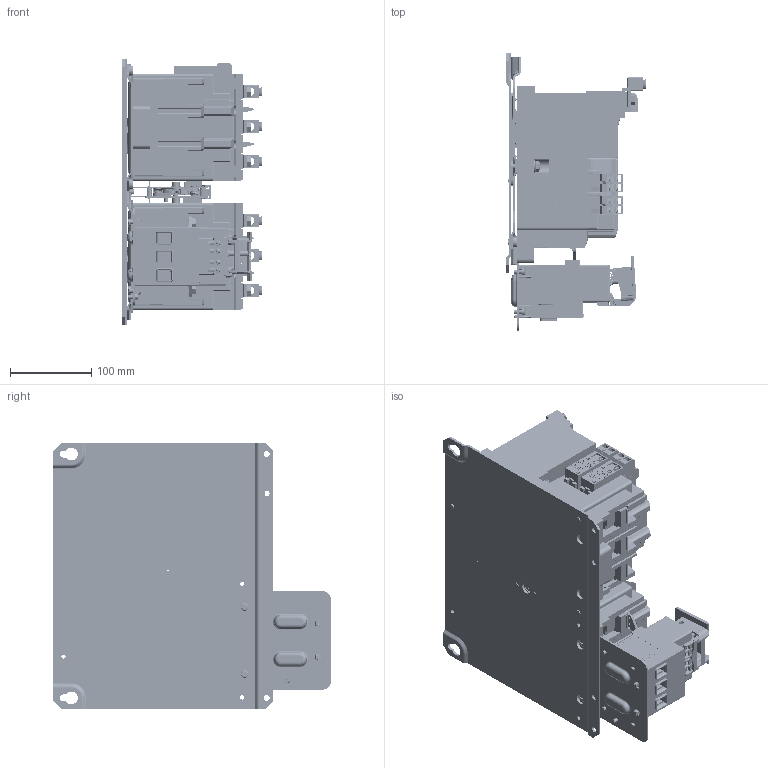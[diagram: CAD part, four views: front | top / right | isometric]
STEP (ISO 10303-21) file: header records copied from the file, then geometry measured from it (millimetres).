
FILE_DESCRIPTION((''),'2;1');
FILE_NAME('10006454360_ASM','2023-06-29T12:55:55',('LEQuenti'),('Rockwell Automation'),'CREO PARAMETRIC BY PTC INC, 2020281','CREO PARAMETRIC BY PTC INC, 2020281','');
FILE_SCHEMA(('CONFIG_CONTROL_DESIGN'));
Length unit declared in the file: inch
Products named in the file (163): 10003258980; 40794-40430044; 10000065004; 10000065005; 10000065006; 10000065007; 40794-28168645; 40793-524-SIZE3LUG; 40793-524-SZ3LUGSC; 40430-500-DOD_ASM; 10000009533; 10003227478; 10003230118; 10003230120; 10003230124; M-7281-PRT; 10003255875_ASM; 10003256028; 10003255768; 10003255774; 10003255819; 40497-047; 10003255820; 10003255823; 10003255856_ASM; 10000009466; 40497-005; 10003230320; 10003230318; 10003255761_ASM; 10000009571; 10003255926; 10003256029_ASM; 10000009625; 10000994734; 10003258880_ASM; 28160-135-26; 10002334834; 40794-141; 40794-142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
Assembly tree (345 placements, depth 9):
  10006454360_ASM
    10003258980
    40430-500-DOD_ASM
      40794-40430044
      10000065004
      10000065005
      10000065006
      10000065007
      40794-28168645  x2
      40793-524-SIZE3LUG  x3
      40793-524-SZ3LUGSC  x3
    10003258880_ASM
      10003256029_ASM
        10003255875_ASM
          10000009533
          10003227478
          10003230118
          10003230120
          10003230124
          M-7281-PRT
        10003256028  x2
        10003255856_ASM
          10003255768  x2
          10003255774
          10003255819  x2
          40497-047  x2
          10003255820
          10003255823
        10000009466
        M-7281-PRT
        40497-005  x3
        10003255761_ASM  x2
          10003230320
          10003230318
        10000009571
        10003255926  x2
      10000009625
      10000994734  x3
    28160-135-26  x3
    10002337434_AF0_ASM
      40430-500-DOD_ASM
        40794-40430044
        10000065004
        10000065005
        10000065006
        10000065007
        40794-28168645  x2
        40793-524-SIZE3LUG  x3
        40793-524-SZ3LUGSC  x3
      10002335676_AF0_ASM
        10002334854_ASM
          10002334834
          40794-141  x3
          40794-142  x3
          10002334856
          40755-2818252301
          10002334836_ASM  x3
            10002335642_ASM
              10002335640
              10002335641
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Bounding box: 172.3 x 341.56 x 326.9 mm (x, y, z)
Volume: 5971538.5 mm3; surface area: 1387534.4 mm2
Topology: 420 solids, 427 shells, 39236 faces, 105577 edges, 68217 vertices
Faces by surface type: plane 28331, cylinder 6446, cone 1380, extrusion 1005, bspline 1004, torus 574, sphere 486, revolution 10
Entity records: 852977 total; most frequent: CARTESIAN_POINT 237969, ORIENTED_EDGE 133129, DIRECTION 116542, EDGE_CURVE 66596, VECTOR 54024, LINE 53385, VERTEX_POINT 43099, AXIS2_PLACEMENT_3D 31256
